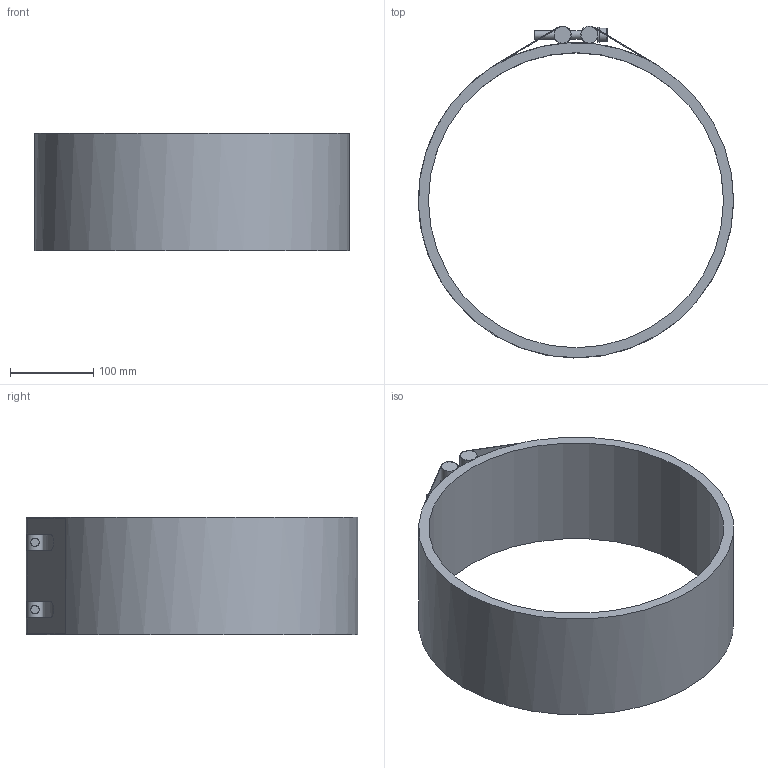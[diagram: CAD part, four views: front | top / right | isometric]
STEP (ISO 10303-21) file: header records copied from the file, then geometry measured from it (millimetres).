
FILE_DESCRIPTION(/* description */ (''),/* implementation_level */ '2;1');
FILE_NAME(/* name */ 'C:\Users\BR_11K\Desktop\STRAUB PLAST-GRIP 355.0.stp',/* time_stamp */ '2016-05-09T08:34:06+02:00',/* author */ ('BR_11K'),/* organization */ (''),/* preprocessor_version */ 'ST-DEVELOPER v16.1',/* originating_system */ 'Autodesk Inventor 2016',/* authorisation */ '');
FILE_SCHEMA (('AUTOMOTIVE_DESIGN { 1 0 10303 214 3 1 1 }'));
Length unit declared in the file: millimetre
Products named in the file (1): STRAUB PLAST-GRIP 355.0
Bounding box: 379.17 x 399.21 x 141 mm (x, y, z)
Volume: 2079982.6 mm3; surface area: 407661.2 mm2
Topology: 1 solids, 1 shells, 88 faces, 254 edges, 163 vertices
Faces by surface type: plane 56, cylinder 30, torus 2
Full cylindrical faces by diameter (mm): 10 x4, 16 x2, 18 x2, 20 x2, 355 x1, 379.2 x1
Entity records: 3052 total; most frequent: CARTESIAN_POINT 739, DIRECTION 476, ORIENTED_EDGE 460, EDGE_CURVE 226, AXIS2_PLACEMENT_3D 171, VERTEX_POINT 156, LINE 134, VECTOR 134
